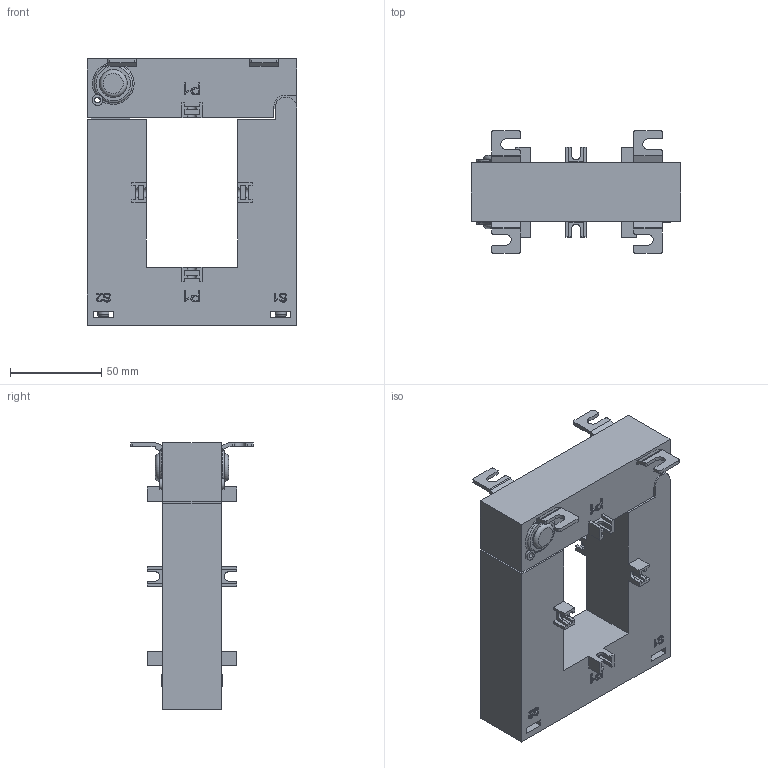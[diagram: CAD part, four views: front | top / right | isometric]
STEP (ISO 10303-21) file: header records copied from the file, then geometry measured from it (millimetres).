
FILE_DESCRIPTION(/* description */ ('Unknown'),/* implementation_level */ '2;1');
FILE_NAME(/* name */ 'HX0158',/* time_stamp */ '2025-07-20T09:44:11+03:00',/* author */ ('Unknown'),/* organization */ ('Unknown'),/* preprocessor_version */ 'ST-DEVELOPER v16.7',/* originating_system */ 'Solid Edge',/* authorisation */ 'Unknown');
FILE_SCHEMA (('AUTOMOTIVE_DESIGN {1 0 10303 214 3 1 1}'));
Length unit declared in the file: millimetre
Products named in the file (1): HX0158
Bounding box: 115 x 67.5 x 146.2 mm (x, y, z)
Volume: 409149.1 mm3; surface area: 63765.4 mm2
Topology: 1 solids, 1 shells, 493 faces, 1355 edges, 898 vertices
Faces by surface type: plane 382, cylinder 60, bspline 32, torus 19
Full cylindrical faces by diameter (mm): 3.2 x1, 6 x6, 6.9 x4, 15 x2, 15.2 x2, 15.4 x2
Entity records: 21529 total; most frequent: CARTESIAN_POINT 6002, ORIENTED_EDGE 2636, DIRECTION 2189, EDGE_CURVE 1318, LINE 951, VECTOR 951, VERTEX_POINT 886, AXIS2_PLACEMENT_3D 619
